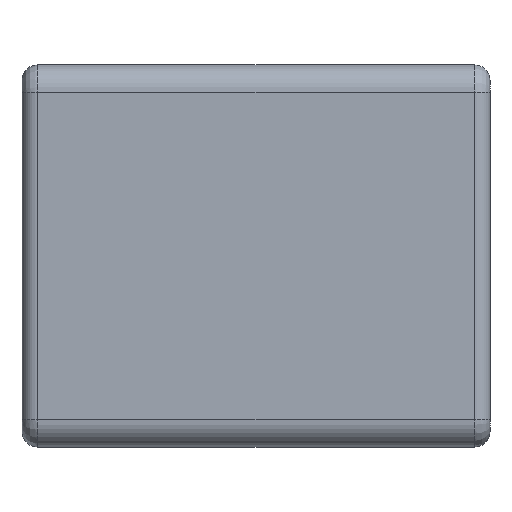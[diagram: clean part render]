
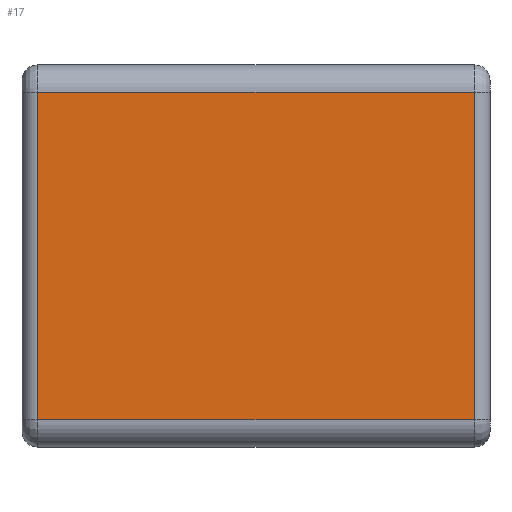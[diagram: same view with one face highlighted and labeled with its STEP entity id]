
A CAD part, front view. The second image highlights one B-rep face of the part: STEP entity #17.
In plain terms, the highlighted planar face has unit normal (0, -1, 0).
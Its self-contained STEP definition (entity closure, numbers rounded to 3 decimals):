
#17 = ADVANCED_FACE('',(#18),#32,.F.);
#18 = FACE_BOUND('',#19,.F.);
#19 = EDGE_LOOP('',(#20,#55,#83,#111));
#20 = ORIENTED_EDGE('',*,*,#21,.T.);
#21 = EDGE_CURVE('',#22,#24,#26,.T.);
#22 = VERTEX_POINT('',#23);
#23 = CARTESIAN_POINT('',(-1.057,-18.994,-7.75));
#24 = VERTEX_POINT('',#25);
#25 = CARTESIAN_POINT('',(4.543,-18.994,-7.75));
#26 = SURFACE_CURVE('',#27,(#31,#43),.PCURVE_S1.);
#27 = LINE('',#28,#29);
#28 = CARTESIAN_POINT('',(-1.257,-18.994,-7.75));
#29 = VECTOR('',#30,1.);
#30 = DIRECTION('',(1.,0.,0.));
#31 = PCURVE('',#32,#37);
#32 = PLANE('',#33);
#33 = AXIS2_PLACEMENT_3D('',#34,#35,#36);
#34 = CARTESIAN_POINT('',(-1.257,-18.994,-7.4));
#35 = DIRECTION('',(-0.,1.,0.));
#36 = DIRECTION('',(0.,0.,-1.));
#37 = DEFINITIONAL_REPRESENTATION('',(#38),#42);
#38 = LINE('',#39,#40);
#39 = CARTESIAN_POINT('',(0.35,0.));
#40 = VECTOR('',#41,1.);
#41 = DIRECTION('',(0.,-1.));
#42 = ( GEOMETRIC_REPRESENTATION_CONTEXT(2) 
PARAMETRIC_REPRESENTATION_CONTEXT() REPRESENTATION_CONTEXT('2D SPACE',''
  ) );
#43 = PCURVE('',#44,#49);
#44 = CYLINDRICAL_SURFACE('',#45,0.35);
#45 = AXIS2_PLACEMENT_3D('',#46,#47,#48);
#46 = CARTESIAN_POINT('',(-1.257,-18.644,-7.75));
#47 = DIRECTION('',(1.,0.,0.));
#48 = DIRECTION('',(0.,-1.,0.));
#49 = DEFINITIONAL_REPRESENTATION('',(#50),#54);
#50 = LINE('',#51,#52);
#51 = CARTESIAN_POINT('',(-0.,0.));
#52 = VECTOR('',#53,1.);
#53 = DIRECTION('',(-0.,1.));
#54 = ( GEOMETRIC_REPRESENTATION_CONTEXT(2) 
PARAMETRIC_REPRESENTATION_CONTEXT() REPRESENTATION_CONTEXT('2D SPACE',''
  ) );
#55 = ORIENTED_EDGE('',*,*,#56,.T.);
#56 = EDGE_CURVE('',#24,#57,#59,.T.);
#57 = VERTEX_POINT('',#58);
#58 = CARTESIAN_POINT('',(4.543,-18.994,-11.95));
#59 = SURFACE_CURVE('',#60,(#64,#71),.PCURVE_S1.);
#60 = LINE('',#61,#62);
#61 = CARTESIAN_POINT('',(4.543,-18.994,-7.75));
#62 = VECTOR('',#63,1.);
#63 = DIRECTION('',(0.,0.,-1.));
#64 = PCURVE('',#32,#65);
#65 = DEFINITIONAL_REPRESENTATION('',(#66),#70);
#66 = LINE('',#67,#68);
#67 = CARTESIAN_POINT('',(0.35,-5.8));
#68 = VECTOR('',#69,1.);
#69 = DIRECTION('',(1.,0.));
#70 = ( GEOMETRIC_REPRESENTATION_CONTEXT(2) 
PARAMETRIC_REPRESENTATION_CONTEXT() REPRESENTATION_CONTEXT('2D SPACE',''
  ) );
#71 = PCURVE('',#72,#77);
#72 = CYLINDRICAL_SURFACE('',#73,0.2);
#73 = AXIS2_PLACEMENT_3D('',#74,#75,#76);
#74 = CARTESIAN_POINT('',(4.543,-18.794,-7.75));
#75 = DIRECTION('',(0.,0.,-1.));
#76 = DIRECTION('',(1.,0.,0.));
#77 = DEFINITIONAL_REPRESENTATION('',(#78),#82);
#78 = LINE('',#79,#80);
#79 = CARTESIAN_POINT('',(1.571,0.));
#80 = VECTOR('',#81,1.);
#81 = DIRECTION('',(0.,1.));
#82 = ( GEOMETRIC_REPRESENTATION_CONTEXT(2) 
PARAMETRIC_REPRESENTATION_CONTEXT() REPRESENTATION_CONTEXT('2D SPACE',''
  ) );
#83 = ORIENTED_EDGE('',*,*,#84,.F.);
#84 = EDGE_CURVE('',#85,#57,#87,.T.);
#85 = VERTEX_POINT('',#86);
#86 = CARTESIAN_POINT('',(-1.057,-18.994,-11.95));
#87 = SURFACE_CURVE('',#88,(#92,#99),.PCURVE_S1.);
#88 = LINE('',#89,#90);
#89 = CARTESIAN_POINT('',(-1.257,-18.994,-11.95));
#90 = VECTOR('',#91,1.);
#91 = DIRECTION('',(1.,0.,0.));
#92 = PCURVE('',#32,#93);
#93 = DEFINITIONAL_REPRESENTATION('',(#94),#98);
#94 = LINE('',#95,#96);
#95 = CARTESIAN_POINT('',(4.55,0.));
#96 = VECTOR('',#97,1.);
#97 = DIRECTION('',(0.,-1.));
#98 = ( GEOMETRIC_REPRESENTATION_CONTEXT(2) 
PARAMETRIC_REPRESENTATION_CONTEXT() REPRESENTATION_CONTEXT('2D SPACE',''
  ) );
#99 = PCURVE('',#100,#105);
#100 = CYLINDRICAL_SURFACE('',#101,0.35);
#101 = AXIS2_PLACEMENT_3D('',#102,#103,#104);
#102 = CARTESIAN_POINT('',(-1.257,-18.644,-11.95));
#103 = DIRECTION('',(1.,0.,0.));
#104 = DIRECTION('',(0.,-1.,0.));
#105 = DEFINITIONAL_REPRESENTATION('',(#106),#110);
#106 = LINE('',#107,#108);
#107 = CARTESIAN_POINT('',(0.,0.));
#108 = VECTOR('',#109,1.);
#109 = DIRECTION('',(0.,1.));
#110 = ( GEOMETRIC_REPRESENTATION_CONTEXT(2) 
PARAMETRIC_REPRESENTATION_CONTEXT() REPRESENTATION_CONTEXT('2D SPACE',''
  ) );
#111 = ORIENTED_EDGE('',*,*,#112,.F.);
#112 = EDGE_CURVE('',#22,#85,#113,.T.);
#113 = SURFACE_CURVE('',#114,(#118,#125),.PCURVE_S1.);
#114 = LINE('',#115,#116);
#115 = CARTESIAN_POINT('',(-1.057,-18.994,-7.75));
#116 = VECTOR('',#117,1.);
#117 = DIRECTION('',(0.,0.,-1.));
#118 = PCURVE('',#32,#119);
#119 = DEFINITIONAL_REPRESENTATION('',(#120),#124);
#120 = LINE('',#121,#122);
#121 = CARTESIAN_POINT('',(0.35,-0.2));
#122 = VECTOR('',#123,1.);
#123 = DIRECTION('',(1.,0.));
#124 = ( GEOMETRIC_REPRESENTATION_CONTEXT(2) 
PARAMETRIC_REPRESENTATION_CONTEXT() REPRESENTATION_CONTEXT('2D SPACE',''
  ) );
#125 = PCURVE('',#126,#131);
#126 = CYLINDRICAL_SURFACE('',#127,0.2);
#127 = AXIS2_PLACEMENT_3D('',#128,#129,#130);
#128 = CARTESIAN_POINT('',(-1.057,-18.794,-7.75));
#129 = DIRECTION('',(0.,0.,-1.));
#130 = DIRECTION('',(-1.,-0.,-0.));
#131 = DEFINITIONAL_REPRESENTATION('',(#132),#136);
#132 = LINE('',#133,#134);
#133 = CARTESIAN_POINT('',(-1.571,0.));
#134 = VECTOR('',#135,1.);
#135 = DIRECTION('',(-0.,1.));
#136 = ( GEOMETRIC_REPRESENTATION_CONTEXT(2) 
PARAMETRIC_REPRESENTATION_CONTEXT() REPRESENTATION_CONTEXT('2D SPACE',''
  ) );
